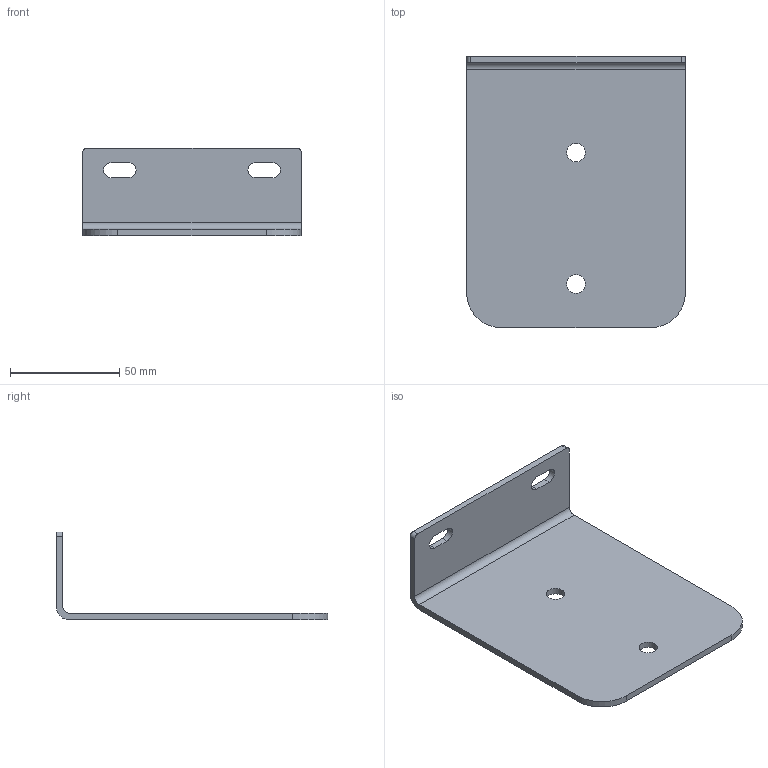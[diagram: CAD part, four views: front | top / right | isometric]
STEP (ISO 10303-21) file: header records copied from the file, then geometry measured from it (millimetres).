
FILE_DESCRIPTION((''),'2;1');
FILE_NAME('F:\AirCom-Produktdokumentation\Befestigungswinkel-Muttern\CAD\CAD AirCom\3D\B-BW00-19.stp','2008-09-29T15:47:37',('Frank Schroers'),(''),'Autodesk Inventor 2008','Autodesk Inventor 2008','');
FILE_SCHEMA(('AUTOMOTIVE_DESIGN { 1 0 10303 214 1 1 1 1 }'));
Length unit declared in the file: millimetre
Products named in the file (1): B-BW00-19
Bounding box: 100 x 124 x 40 mm (x, y, z)
Volume: 46494.3 mm3; surface area: 32889.8 mm2
Topology: 1 solids, 1 shells, 24 faces, 66 edges, 44 vertices
Faces by surface type: cylinder 12, plane 12
Full cylindrical faces by diameter (mm): 8.5 x2
Entity records: 806 total; most frequent: DIRECTION 138, CARTESIAN_POINT 133, ORIENTED_EDGE 128, EDGE_CURVE 64, AXIS2_PLACEMENT_3D 49, VERTEX_POINT 44, VECTOR 40, LINE 40
